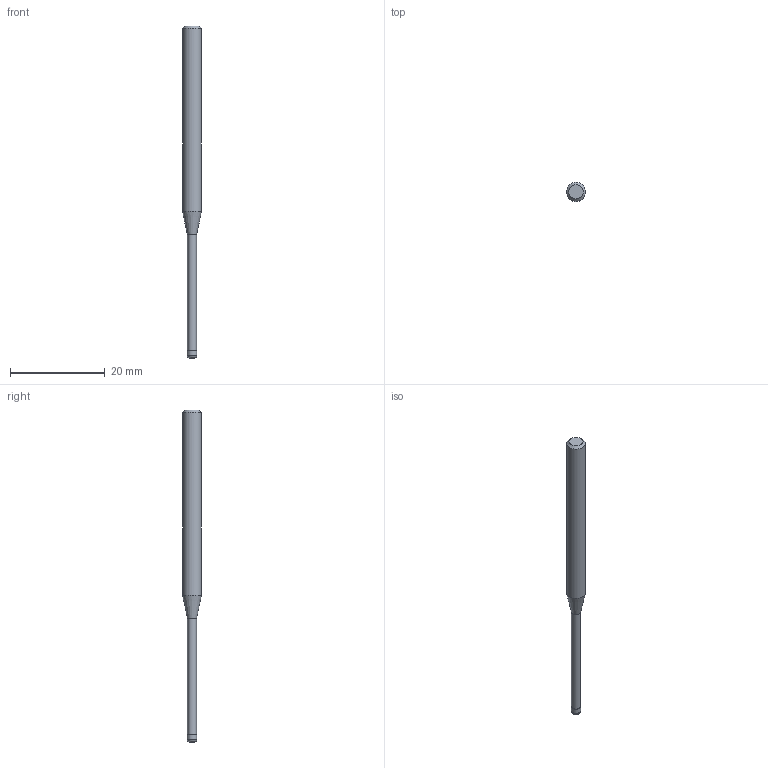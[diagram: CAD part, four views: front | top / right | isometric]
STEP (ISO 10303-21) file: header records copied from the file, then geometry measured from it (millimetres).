
FILE_DESCRIPTION((''),'2;1');
FILE_NAME('C:\Users\nsx150\AppData\Local\Temp\Mastercam 2021\17T8Q8S9EB\TEMP.step','2021-04-21T14:38:15',(''),(''),'STEP Write','Mastercam 2021 ... CNC Software, Inc.','');
FILE_SCHEMA(('AUTOMOTIVE_DESIGN'));
Length unit declared in the file: millimetre
Products named in the file (1): None
Bounding box: 4 x 4 x 70 mm (x, y, z)
Volume: 599.5 mm3; surface area: 710.5 mm2
Topology: 2 solids, 2 shells, 10 faces, 14 edges, 8 vertices
Faces by surface type: plane 4, cylinder 3, cone 2, torus 1
Full cylindrical faces by diameter (mm): 1.91 x1, 2 x1, 4 x1
Entity records: 232 total; most frequent: DIRECTION 40, CARTESIAN_POINT 28, AXIS2_PLACEMENT_3D 20, ORIENTED_EDGE 16, EDGE_LOOP 16, STYLED_ITEM 13, ADVANCED_FACE 10, FACE_BOUND 10
